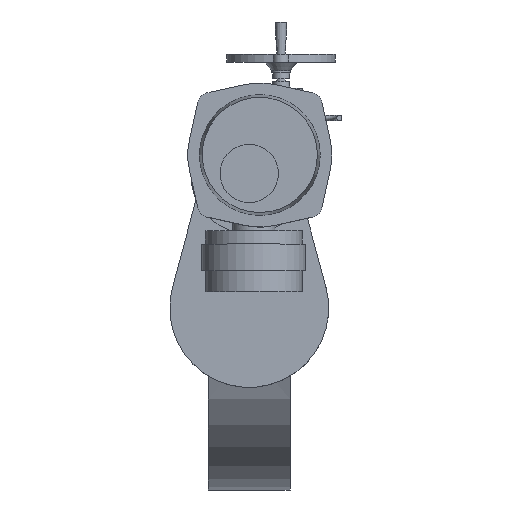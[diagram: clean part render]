
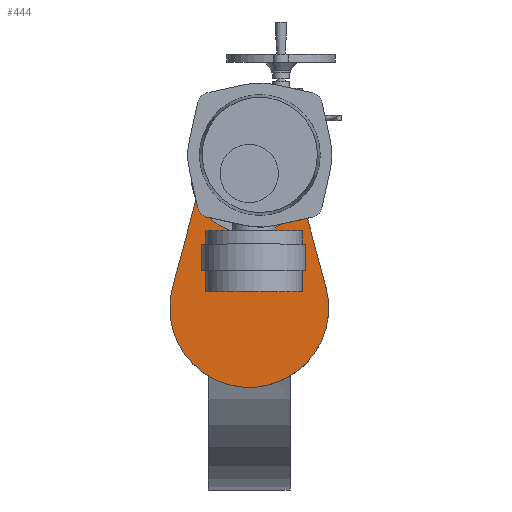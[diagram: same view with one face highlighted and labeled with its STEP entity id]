
A CAD part, top view. The second image highlights one B-rep face of the part: STEP entity #444.
In plain terms, the highlighted planar face has unit normal (0, 0, 1).
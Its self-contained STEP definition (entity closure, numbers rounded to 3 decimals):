
#444=ADVANCED_FACE('',(#8363),#8365,.F.);
#8363=FACE_BOUND('',#8364,.T.);
#8364=EDGE_LOOP('',(#14573,#14574,#14575,#14576,#14577));
#8365=PLANE('',#8366);
#8366=AXIS2_PLACEMENT_3D('',#8367,#8368,#8369);
#8367=CARTESIAN_POINT('',(20.,288.,665.));
#8368=DIRECTION('',(0.,0.,-1.));
#8369=DIRECTION('',(0.,1.,0.));
#14573=ORIENTED_EDGE('',*,*,#19333,.T.);
#14574=ORIENTED_EDGE('',*,*,#19334,.T.);
#14575=ORIENTED_EDGE('',*,*,#19335,.F.);
#14576=ORIENTED_EDGE('',*,*,#19306,.F.);
#14577=ORIENTED_EDGE('',*,*,#19336,.F.);
#19306=EDGE_CURVE('',#21790,#21791,#21792,.T.);
#19333=EDGE_CURVE('',#21844,#21845,#21846,.F.);
#19334=EDGE_CURVE('',#21845,#21847,#21848,.F.);
#19335=EDGE_CURVE('',#21791,#21847,#21849,.T.);
#19336=EDGE_CURVE('',#21844,#21790,#21850,.T.);
#21790=VERTEX_POINT('',#26249);
#21791=VERTEX_POINT('',#26250);
#21792=CIRCLE('',#26251,150.);
#21844=VERTEX_POINT('',#26511);
#21845=VERTEX_POINT('',#26512);
#21846=CIRCLE('',#26513,85.);
#21847=VERTEX_POINT('',#26517);
#21848=CIRCLE('',#26518,85.);
#21849=LINE('',#26522,#26523);
#21850=LINE('',#26525,#26526);
#26249=CARTESIAN_POINT('',(144.841,39.,665.));
#26250=CARTESIAN_POINT('',(-144.841,39.,665.));
#26251=AXIS2_PLACEMENT_3D('',#26252,#26253,#26254);
#26252=CARTESIAN_POINT('',(0.,0.,665.));
#26253=DIRECTION('',(0.,0.,-1.));
#26254=DIRECTION('',(0.966,0.26,0.));
#26511=CARTESIAN_POINT('',(82.077,272.1,665.));
#26512=CARTESIAN_POINT('',(0.,165.,665.));
#26513=AXIS2_PLACEMENT_3D('',#26514,#26515,#26516);
#26514=CARTESIAN_POINT('',(0.,250.,665.));
#26515=DIRECTION('',(0.,0.,1.));
#26516=DIRECTION('',(0.,-1.,0.));
#26517=CARTESIAN_POINT('',(-82.077,272.1,665.));
#26518=AXIS2_PLACEMENT_3D('',#26519,#26520,#26521);
#26519=CARTESIAN_POINT('',(0.,250.,665.));
#26520=DIRECTION('',(0.,0.,1.));
#26521=DIRECTION('',(-0.966,0.26,0.));
#26522=CARTESIAN_POINT('',(-144.841,39.,665.));
#26523=VECTOR('',#26524,1.);
#26524=DIRECTION('',(0.26,0.966,0.));
#26525=CARTESIAN_POINT('',(82.077,272.1,665.));
#26526=VECTOR('',#26527,1.);
#26527=DIRECTION('',(0.26,-0.966,0.));
